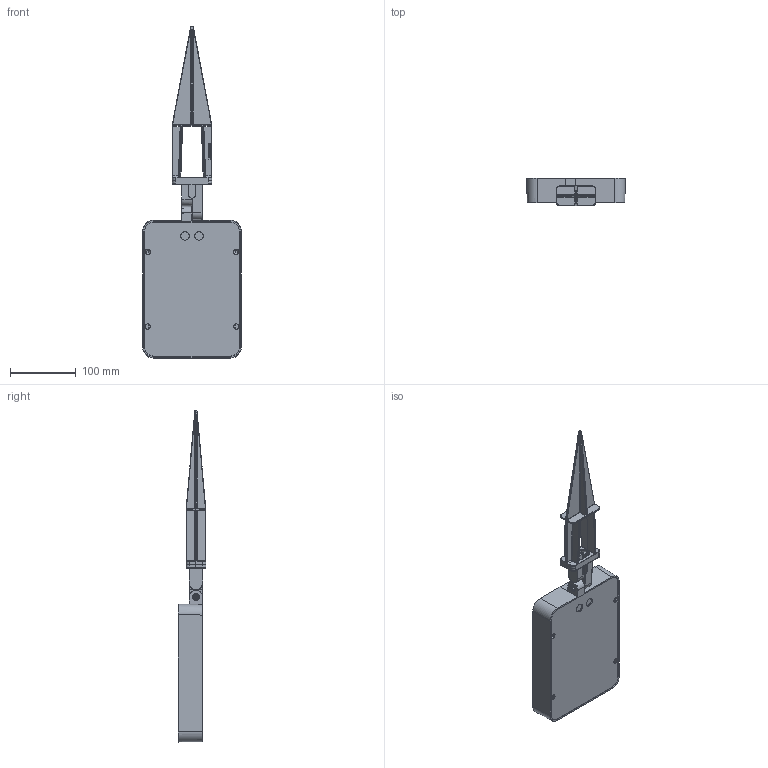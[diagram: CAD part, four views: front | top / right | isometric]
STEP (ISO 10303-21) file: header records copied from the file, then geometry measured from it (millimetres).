
FILE_DESCRIPTION((''),'2;1');
FILE_NAME('TAG210-COB-ASIMM-CITI_SW0003','2025-07-29T09:37:48',('Piccioli'),(''),'CREO PARAMETRIC BY PTC INC, 2025010','CREO PARAMETRIC BY PTC INC, 2025010','');
FILE_SCHEMA(('CONFIG_CONTROL_DESIGN'));
Products named in the file (1): TAG210-COB-ASIMM-CITI_SW0003
Bounding box: 150 x 42 x 506 mm (x, y, z)
Surface area: 255495.9 mm2 (no closed solid volume)
Topology: 0 solids, 119 shells, 884 faces, 3931 edges, 3098 vertices
Faces by surface type: plane 285, cylinder 278, bspline 128, cone 124, torus 69
Entity records: 66391 total; most frequent: CARTESIAN_POINT 37585, DIRECTION 5379, ORIENTED_EDGE 5255, EDGE_CURVE 3931, VERTEX_POINT 3098, AXIS2_PLACEMENT_3D 1833, VECTOR 1713, LINE 1713
